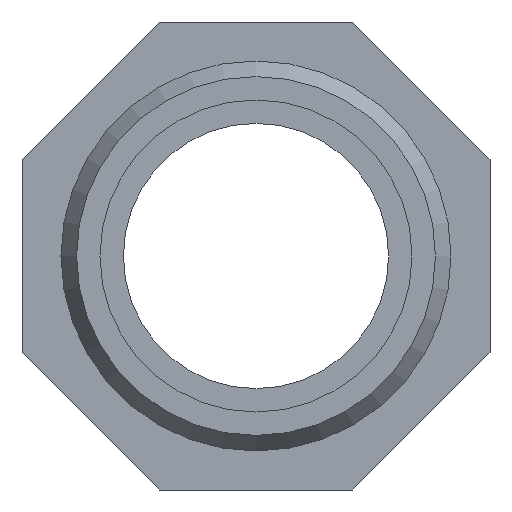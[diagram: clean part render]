
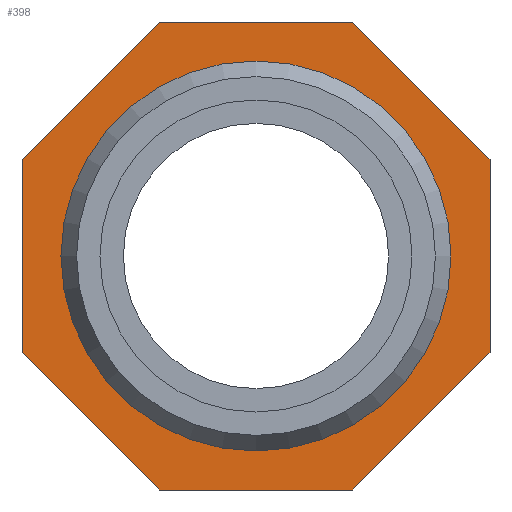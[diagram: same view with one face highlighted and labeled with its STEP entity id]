
A CAD part, front view. The second image highlights one B-rep face of the part: STEP entity #398.
In plain terms, the highlighted planar face has unit normal (0, -1, 0).
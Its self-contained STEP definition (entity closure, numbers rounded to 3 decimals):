
#18=LINE('',#3890,#45);
#19=LINE('',#3892,#46);
#20=LINE('',#3894,#47);
#21=LINE('',#3896,#48);
#22=LINE('',#3898,#49);
#23=LINE('',#3900,#50);
#24=LINE('',#3902,#51);
#25=LINE('',#3903,#52);
#45=VECTOR('',#499,12.426);
#46=VECTOR('',#500,12.426);
#47=VECTOR('',#501,12.426);
#48=VECTOR('',#502,12.426);
#49=VECTOR('',#503,12.426);
#50=VECTOR('',#504,12.426);
#51=VECTOR('',#505,12.426);
#52=VECTOR('',#506,12.426);
#90=PLANE('',#434);
#114=FACE_BOUND('',#168,.T.);
#132=FACE_OUTER_BOUND('',#167,.T.);
#167=EDGE_LOOP('',(#327,#328,#329,#330,#331,#332,#333,#334));
#168=EDGE_LOOP('',(#335));
#181=CIRCLE('',#414,12.5);
#194=VERTEX_POINT('',#548);
#212=VERTEX_POINT('',#3888);
#213=VERTEX_POINT('',#3889);
#214=VERTEX_POINT('',#3891);
#215=VERTEX_POINT('',#3893);
#216=VERTEX_POINT('',#3895);
#217=VERTEX_POINT('',#3897);
#218=VERTEX_POINT('',#3899);
#219=VERTEX_POINT('',#3901);
#230=EDGE_CURVE('',#194,#194,#181,.T.);
#255=EDGE_CURVE('',#212,#213,#18,.T.);
#256=EDGE_CURVE('',#213,#214,#19,.T.);
#257=EDGE_CURVE('',#214,#215,#20,.T.);
#258=EDGE_CURVE('',#215,#216,#21,.T.);
#259=EDGE_CURVE('',#216,#217,#22,.T.);
#260=EDGE_CURVE('',#217,#218,#23,.T.);
#261=EDGE_CURVE('',#218,#219,#24,.T.);
#262=EDGE_CURVE('',#219,#212,#25,.T.);
#327=ORIENTED_EDGE('',*,*,#255,.T.);
#328=ORIENTED_EDGE('',*,*,#256,.T.);
#329=ORIENTED_EDGE('',*,*,#257,.T.);
#330=ORIENTED_EDGE('',*,*,#258,.T.);
#331=ORIENTED_EDGE('',*,*,#259,.T.);
#332=ORIENTED_EDGE('',*,*,#260,.T.);
#333=ORIENTED_EDGE('',*,*,#261,.T.);
#334=ORIENTED_EDGE('',*,*,#262,.T.);
#335=ORIENTED_EDGE('',*,*,#230,.T.);
#398=ADVANCED_FACE('',(#132,#114),#90,.T.);
#414=AXIS2_PLACEMENT_3D('',#549,#454,#455);
#434=AXIS2_PLACEMENT_3D('',#3887,#497,#498);
#454=DIRECTION('center_axis',(0.,1.,0.));
#455=DIRECTION('ref_axis',(-1.,0.,0.));
#497=DIRECTION('center_axis',(0.,-1.,0.));
#498=DIRECTION('ref_axis',(0.,0.,-1.));
#499=DIRECTION('',(-1.,0.,0.));
#500=DIRECTION('',(-0.707,0.,-0.707));
#501=DIRECTION('',(0.,0.,-1.));
#502=DIRECTION('',(0.707,0.,-0.707));
#503=DIRECTION('',(1.,0.,0.));
#504=DIRECTION('',(0.707,0.,0.707));
#505=DIRECTION('',(0.,0.,1.));
#506=DIRECTION('',(-0.707,0.,0.707));
#548=CARTESIAN_POINT('',(12.5,-6.,0.));
#549=CARTESIAN_POINT('Origin',(0.,-6.,0.));
#3887=CARTESIAN_POINT('Origin',(0.,-6.,0.));
#3888=CARTESIAN_POINT('',(6.213,-6.,15.));
#3889=CARTESIAN_POINT('',(-6.213,-6.,15.));
#3890=CARTESIAN_POINT('',(6.213,-6.,15.));
#3891=CARTESIAN_POINT('',(-15.,-6.,6.213));
#3892=CARTESIAN_POINT('',(-6.213,-6.,15.));
#3893=CARTESIAN_POINT('',(-15.,-6.,-6.213));
#3894=CARTESIAN_POINT('',(-15.,-6.,6.213));
#3895=CARTESIAN_POINT('',(-6.213,-6.,-15.));
#3896=CARTESIAN_POINT('',(-15.,-6.,-6.213));
#3897=CARTESIAN_POINT('',(6.213,-6.,-15.));
#3898=CARTESIAN_POINT('',(-6.213,-6.,-15.));
#3899=CARTESIAN_POINT('',(15.,-6.,-6.213));
#3900=CARTESIAN_POINT('',(6.213,-6.,-15.));
#3901=CARTESIAN_POINT('',(15.,-6.,6.213));
#3902=CARTESIAN_POINT('',(15.,-6.,-6.213));
#3903=CARTESIAN_POINT('',(15.,-6.,6.213));
